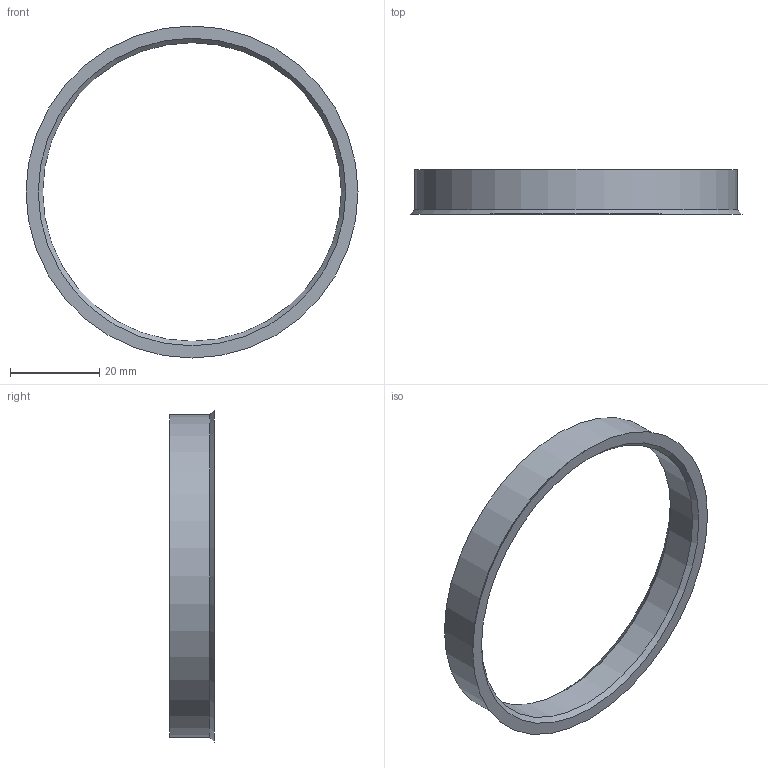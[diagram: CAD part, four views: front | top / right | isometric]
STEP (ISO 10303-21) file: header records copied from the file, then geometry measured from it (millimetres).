
FILE_DESCRIPTION(/* description */ (''),/* implementation_level */ '2;1');
FILE_NAME(/* name */ 'G:\CAD Library\Team Tasks\DIPP\11th Intake\Bradley Coles\Design Drafting\Random\Hub Rings\ipt\HubRing_72.6-67.1.stp',/* time_stamp */ '2025-07-22T13:45:07+08:00',/* author */ ('BCOLES'),/* organization */ (''),/* preprocessor_version */ 'ST-DEVELOPER v18.1',/* originating_system */ 'Autodesk Inventor 2022',/* authorisation */ '');
FILE_SCHEMA (('AUTOMOTIVE_DESIGN { 1 0 10303 214 3 1 1 }'));
Length unit declared in the file: millimetre
Products named in the file (1): HubRing_72.6-67.1
Bounding box: 74.6 x 10 x 74.6 mm (x, y, z)
Volume: 5613.3 mm3; surface area: 5561.9 mm2
Topology: 1 solids, 1 shells, 7 faces, 13 edges, 8 vertices
Faces by surface type: cone 3, cylinder 2, plane 2
Full cylindrical faces by diameter (mm): 67.1 x1, 72.6 x1
Entity records: 226 total; most frequent: DIRECTION 37, CARTESIAN_POINT 29, ORIENTED_EDGE 26, AXIS2_PLACEMENT_3D 16, EDGE_CURVE 13, EDGE_LOOP 9, CIRCLE 8, VERTEX_POINT 8
